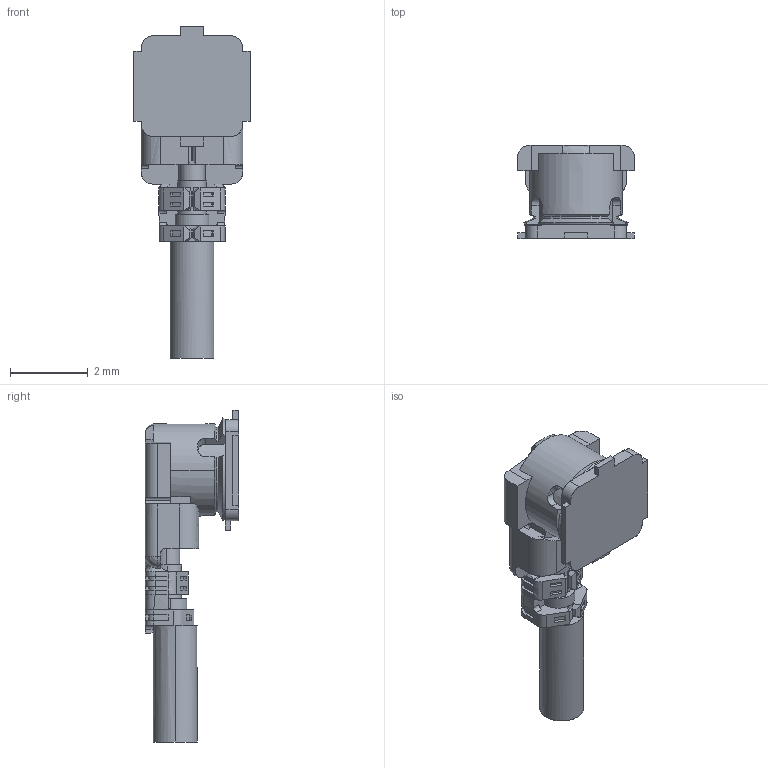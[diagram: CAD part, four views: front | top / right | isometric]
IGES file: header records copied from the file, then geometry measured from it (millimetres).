
Start section: SolidWorks IGES file using analytic representation for surfaces
Global section: file name: C:\3dwork\imaji\00.Web model check\00. New 3D\MHF I\20278-1xxR-13+20279-001E-xxC R15R9 IGES ALL.IGS; native system: SolidWorks 2017; preprocessor: SolidWorks 2017; author: ipxcad-013; date: 180806.092037; units: millimetre
Bounding box: 3 x 2.4 x 8.55 mm (x, y, z)
Surface area: 76 mm2 (no closed solid volume)
Topology: 0 solids, 0 shells, 386 faces, 2803 edges, 2796 vertices
Faces by surface type: bspline 275, revolution 111
